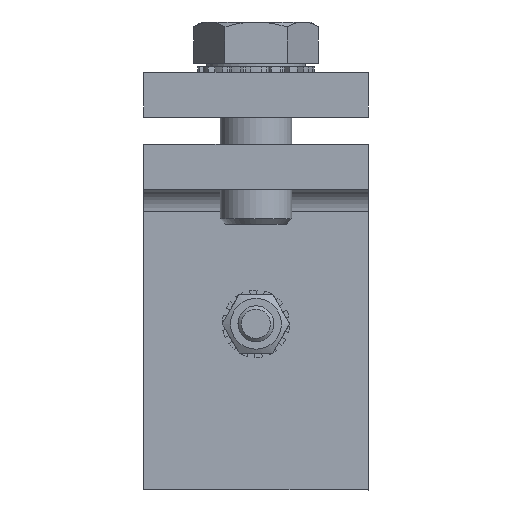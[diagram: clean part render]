
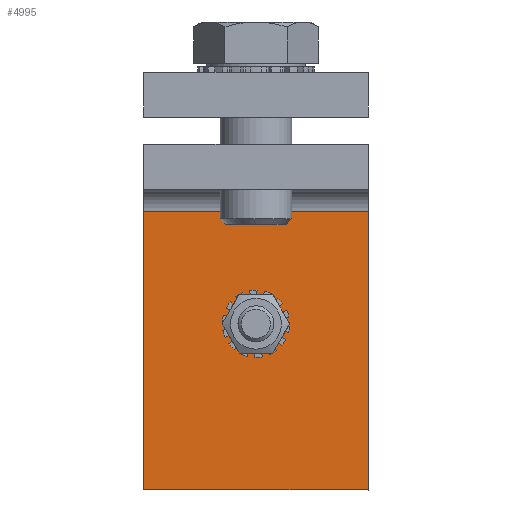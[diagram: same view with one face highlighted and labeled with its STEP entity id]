
A CAD part, left-side view. The second image highlights one B-rep face of the part: STEP entity #4995.
In plain terms, the highlighted planar face has unit normal (-1, 0, 0).
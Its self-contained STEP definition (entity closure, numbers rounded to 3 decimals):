
#247=LINE('',#7623,#645);
#259=LINE('',#7657,#657);
#260=LINE('',#7659,#658);
#261=LINE('',#7660,#659);
#645=VECTOR('',#5981,50.);
#657=VECTOR('',#6019,61.995);
#658=VECTOR('',#6020,50.);
#659=VECTOR('',#6021,61.995);
#1039=PLANE('',#5316);
#1202=FACE_BOUND('',#1573,.T.);
#1263=FACE_OUTER_BOUND('',#1572,.T.);
#1572=EDGE_LOOP('',(#3532,#3533,#3534,#3535));
#1573=EDGE_LOOP('',(#3536));
#1882=CIRCLE('',#5295,4.25);
#2205=VERTEX_POINT('',#7600);
#2207=VERTEX_POINT('',#7605);
#2212=VERTEX_POINT('',#7615);
#2223=VERTEX_POINT('',#7656);
#2224=VERTEX_POINT('',#7658);
#2716=EDGE_CURVE('',#2205,#2205,#1882,.T.);
#2726=EDGE_CURVE('',#2207,#2212,#247,.T.);
#2742=EDGE_CURVE('',#2223,#2212,#259,.T.);
#2743=EDGE_CURVE('',#2224,#2223,#260,.T.);
#2744=EDGE_CURVE('',#2207,#2224,#261,.T.);
#3532=ORIENTED_EDGE('',*,*,#2726,.T.);
#3533=ORIENTED_EDGE('',*,*,#2742,.F.);
#3534=ORIENTED_EDGE('',*,*,#2743,.F.);
#3535=ORIENTED_EDGE('',*,*,#2744,.F.);
#3536=ORIENTED_EDGE('',*,*,#2716,.T.);
#4995=ADVANCED_FACE('',(#1263,#1202),#1039,.T.);
#5295=AXIS2_PLACEMENT_3D('',#7601,#5959,#5960);
#5316=AXIS2_PLACEMENT_3D('',#7655,#6017,#6018);
#5959=DIRECTION('center_axis',(1.,0.,0.));
#5960=DIRECTION('ref_axis',(0.,0.,1.));
#5981=DIRECTION('',(0.,-1.,0.));
#6017=DIRECTION('center_axis',(-1.,0.,0.));
#6018=DIRECTION('ref_axis',(0.,0.,1.));
#6019=DIRECTION('',(0.,0.,-1.));
#6020=DIRECTION('',(0.,-1.,0.));
#6021=DIRECTION('',(0.,0.,1.));
#7600=CARTESIAN_POINT('',(105.,0.,44.245));
#7601=CARTESIAN_POINT('Origin',(105.,0.,39.995));
#7605=CARTESIAN_POINT('',(105.,25.,15.));
#7615=CARTESIAN_POINT('',(105.,-25.,15.));
#7623=CARTESIAN_POINT('',(105.,12.5,15.));
#7655=CARTESIAN_POINT('Origin',(105.,0.,-10.505));
#7656=CARTESIAN_POINT('',(105.,-25.,76.995));
#7657=CARTESIAN_POINT('',(105.,-25.,76.995));
#7658=CARTESIAN_POINT('',(105.,25.,76.995));
#7659=CARTESIAN_POINT('',(105.,25.,76.995));
#7660=CARTESIAN_POINT('',(105.,25.,-98.005));
